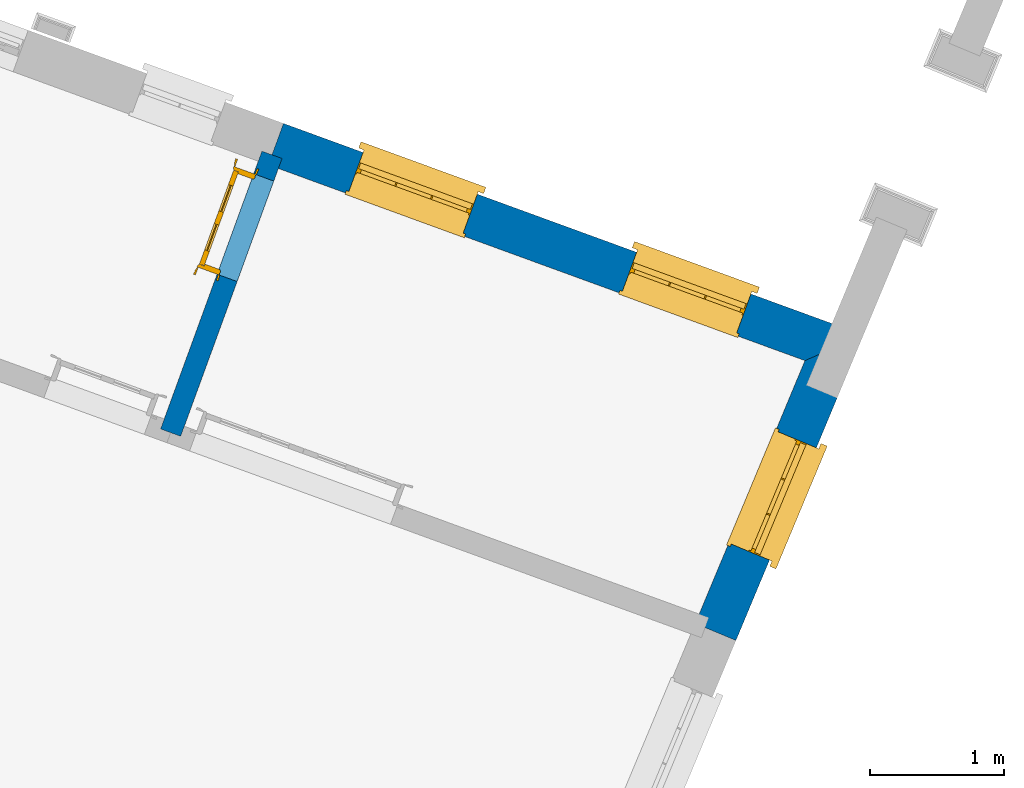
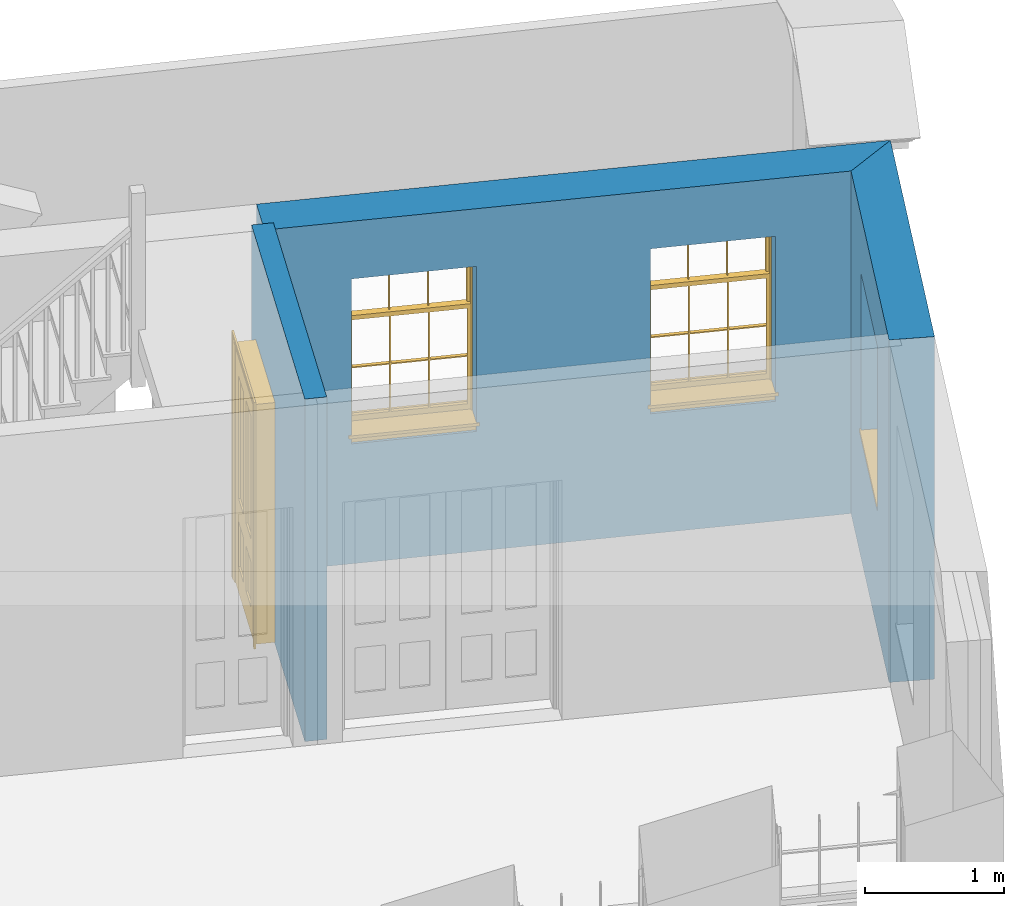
# One storey, part 4 of 6: 3 walls, 3 windows, 1 door, 4 openings.
"""IFC4 building model written with IfcOpenShell, lengths in metres."""

from ifc_helpers import new_model, si_unit, frame, origin, origin_with_axes, place, context, subcontext, project, spatial, polyline, outline, extrude, faceted_brep, source, transform, mapped, material, layer, layer_set, layer_usage, type_object, type_shapes, element, fill, save


model = new_model("IFC4")

# Units and contexts
model_context = context("Model", 3, world=origin_with_axes())
body_context = subcontext(model_context, "Body", "Model", "MODEL_VIEW")
ifc_project = project(units=[si_unit("PLANEANGLEUNIT", "RADIAN"), si_unit("MASSUNIT", "GRAM", prefix="KILO"), si_unit("FORCEUNIT", "NEWTON", prefix="KILO"), si_unit("LENGTHUNIT", "METRE"), si_unit("AREAUNIT", "SQUARE_METRE"), si_unit("VOLUMEUNIT", "CUBIC_METRE")], contexts=[model_context, model_context])

# Sites, building, storey
site_1_placement = place(None, origin_with_axes())
site_1 = spatial("IfcSite", under=ifc_project, at=site_1_placement, Name="Tamar")
site_2_placement = place(site_1_placement, origin_with_axes())
site_2 = spatial("IfcSite", under=site_1, at=site_2_placement, Name="Site plot-13", CompositionType="ELEMENT")
building_placement = place(None, origin_with_axes())
building = spatial("IfcBuilding", under=site_2, at=building_placement, Name="Building plot-13", CompositionType="ELEMENT")
storey_placement = place(None, frame((0.0, 0.0, 26.0), z_axis=(0.0, 0.0, 1.0), x_axis=(1.0, 0.0, 0.0)))
storey = spatial("IfcBuildingStorey", under=building, at=storey_placement, Name="plot-13 0", CompositionType="ELEMENT", Elevation=26.0)

# Wall, opening, window
ifc_material_1 = material(Name="Masonry")
ifc_layer_1 = layer(ifc_material_1, 0.33, ventilated=False)
ifc_layer_set_1 = layer_set([ifc_layer_1], Name="exterior_0.08_0.25")
ifc_layer_usage_1 = layer_usage(ifc_layer_set_1, "AXIS2", "POSITIVE", -0.25)
wall_type_1 = type_object("IfcWallType", Name="exterior_0.08_0.25", PredefinedType="SOLIDWALL", material=ifc_layer_set_1)
wall_1_placement = place(storey_placement, frame((249.746626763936, 299.462658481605, 0.0), z_axis=(0.0, 0.0, 1.0), x_axis=(0.385150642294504, 0.922853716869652, 0.0)))
wall_1 = element("IfcWall", 1, at=wall_1_placement, inside=storey, type_object=wall_type_1, material=ifc_layer_usage_1, Name="exterior", context=body_context, shape_type="SweptSolid", body=[
    extrude(outline(polyline([(1.88520446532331e-14, 0.0799999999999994), (-8.53340920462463e-15, -0.250000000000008), (2.47628927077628, -0.250000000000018), (2.13090650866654, 0.0799999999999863), (1.88520446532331e-14, 0.0799999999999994)])), origin_with_axes(), (0.0, 0.0, 1.0), 3.0),
])
opening_1_placement = place(wall_1_placement, frame((0.652317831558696, 0.0, 1.05)))
opening_1 = element("IfcOpeningElement", 2, at=opening_1_placement, cuts=wall_1, Name="My Opening", ObjectType="Opening", context=body_context, shape_type="SweptSolid", body=[
    extrude(outline(polyline([(0.0, -0.270000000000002), (0.910000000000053, -0.269999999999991), (0.91000000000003, 1.09999999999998), (-2.28705943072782e-14, 1.09999999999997), (0.0, -0.270000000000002)])), origin_with_axes(), (0.0, 0.0, 1.0), 1.445),
])
window_type = type_object("IfcWindowType", Name="sash_shorter", PartitioningType="DOUBLE_PANEL_HORIZONTAL", PredefinedType="NOTDEFINED")
shared_shape_1 = source(origin(), body_context, "Body", "Brep", [
    faceted_brep([(0.876875, 0.145, 0.999097), (0.876875, 0.145, 1.411875), (0.9, 0.145, 1.435), (0.033125, 0.145, 1.411875), (0.033125, 0.145, 0.999097), (0.01, 0.145, 1.435), (0.033125, 0.115, 1.411875), (0.01, 0.115, 1.435), (0.033125, 0.115, 0.999097), (0.876875, 0.115, 1.411875), (0.876875, 0.115, 0.999097), (0.9, 0.115, 1.435), (0.033125, 0.145, 0.960972), (0.01, 0.145, 0.960972), (0.033125, 0.145, 0.548195), (0.876875, 0.145, 0.960972), (0.876875, 0.145, 0.548195), (0.9, 0.145, 0.960972), (0.876875, 0.145, 0.538195), (0.876875, 0.145, 0.125417), (0.9, 0.145, 0.077167), (0.033125, 0.145, 0.125417), (0.033125, 0.145, 0.538195), (0.01, 0.145, 0.077167), (0.9, 0.115, 0.960972), (0.01, 0.115, 0.960972), (-0.0425, 0.0, 0.01), (-0.0425, -0.05, 0.001667), (0.0, 0.0, 0.01), (0.9525, 0.0, 0.01), (0.91, 0.0, 0.01), (0.9525, -0.05, 0.001667), (-0.02, 0.33, 0.077167), (0.0, 0.33, 0.077167), (-0.02, 0.36, 0.077167), (0.0, 0.19, 0.077167), (0.01, 0.19, 0.077167), (0.91, 0.19, 0.077167), (0.91, 0.33, 0.077167), (0.9, 0.19, 0.077167), (0.93, 0.33, 0.077167), (0.93, 0.36, 0.077167), (0.01, 0.145, 0.999097), (0.01, 0.175, 0.999097), (0.9, 0.145, 0.999097), (0.9, 0.175, 0.999097), (0.876875, 0.175, 0.125417), (0.876875, 0.175, 0.538195), (0.9, 0.175, 0.077167), (0.876875, 0.175, 0.548195), (0.876875, 0.175, 0.960972), (0.033125, 0.175, 0.125417), (0.01, 0.175, 0.077167), (0.033125, 0.175, 0.538195), (0.033125, 0.175, 0.960972), (0.033125, 0.175, 0.548195), (-0.02, 0.33, 0.052167), (-0.02, 0.36, 0.052167), (0.93, 0.36, 0.052167), (0.93, 0.33, 0.052167), (0.91, 0.33, 0.052167), (0.0, 0.33, 0.052167), (0.91, 0.1, 0.026667), (0.0, 0.1, 0.026667), (-0.0425, -0.05, -0.123333), (0.9525, -0.05, -0.123333), (-0.0425, 0.0, -0.123333), (0.9525, 0.0, -0.123333), (0.01, 0.19, 1.435), (0.9, 0.19, 1.435), (0.0, 0.19, 1.445), (0.91, 0.19, 1.445), (0.01, 0.1, 0.077167), (0.9, 0.1, 0.077167), (0.592292, 0.145, 0.125417), (0.592292, 0.175, 0.125417), (0.317708, 0.175, 0.125417), (0.317708, 0.145, 0.125417), (0.592292, 0.145, 0.548195), (0.317708, 0.145, 0.548195), (0.317708, 0.145, 0.538195), (0.592292, 0.145, 0.538195), (0.592292, 0.175, 0.548195), (0.317708, 0.175, 0.548195), (0.602292, 0.175, 0.548195), (0.602292, 0.145, 0.548195), (0.317708, 0.175, 0.538195), (0.307708, 0.175, 0.125417), (0.307708, 0.175, 0.538195), (0.602292, 0.175, 0.538195), (0.602292, 0.175, 0.125417), (0.592292, 0.175, 0.538195), (0.307708, 0.175, 0.548195), (0.317708, 0.175, 0.960972), (0.307708, 0.175, 0.960972), (0.602292, 0.175, 0.960972), (0.592292, 0.175, 0.960972), (0.307708, 0.145, 0.538195), (0.307708, 0.145, 0.125417), (0.307708, 0.145, 0.548195), (0.307708, 0.145, 0.960972), (0.592292, 0.145, 0.960972), (0.317708, 0.145, 0.960972), (0.602292, 0.145, 0.960972), (0.602292, 0.145, 0.538195), (0.602292, 0.145, 0.125417), (0.317708, 0.115, 1.411875), (0.307708, 0.115, 1.411875), (0.307708, 0.115, 0.999097), (0.317708, 0.115, 0.999097), (0.602292, 0.115, 1.411875), (0.592292, 0.115, 1.411875), (0.592292, 0.115, 0.999097), (0.602292, 0.115, 0.999097), (0.317708, 0.145, 0.999097), (0.307708, 0.145, 0.999097), (0.307708, 0.145, 1.411875), (0.317708, 0.145, 1.411875), (0.602292, 0.145, 0.999097), (0.592292, 0.145, 0.999097), (0.592292, 0.145, 1.411875), (0.602292, 0.145, 1.411875), (0.91, 0.1, 1.445), (0.9, 0.1, 1.435), (0.01, 0.1, 1.435), (0.0, 0.1, 1.445), (0.91, 0.0, 0.0), (0.0, 0.0, 0.0), (0.91, 0.33, 0.0), (0.0, 0.33, 0.0)], [[[0, 1, 2]], [[3, 4, 5]], [[6, 7, 8]], [[9, 10, 11]], [[12, 13, 14]], [[15, 16, 17]], [[18, 19, 20]], [[21, 22, 23]], [[24, 15, 17]], [[13, 12, 25]], [[26, 27, 28]], [[29, 30, 31]], [[32, 33, 34]], [[35, 36, 33]], [[37, 38, 39]], [[40, 41, 38]], [[42, 4, 43]], [[44, 45, 0]], [[46, 47, 48]], [[49, 50, 45]], [[51, 52, 53]], [[54, 55, 43]], [[38, 33, 36, 39]], [[41, 34, 33, 38]], [[56, 32, 34, 57]], [[57, 34, 41, 58]], [[58, 41, 40, 59]], [[57, 58, 60, 61]], [[52, 48, 39, 36]], [[62, 63, 28, 30]], [[27, 31, 30, 28]], [[27, 64, 65, 31]], [[66, 67, 65, 64]], [[2, 5, 68, 69]], [[68, 70, 71, 69]], [[20, 23, 72, 73]], [[73, 72, 63, 62]], [[74, 75, 76, 77]], [[78, 79, 80, 81]], [[78, 82, 83, 79]], [[16, 49, 84, 85]], [[86, 76, 87, 88]], [[89, 90, 75, 91]], [[92, 88, 53, 55]], [[82, 91, 86, 83]], [[93, 83, 92, 94]], [[95, 84, 82, 96]], [[89, 84, 49, 47]], [[97, 88, 87, 98]], [[22, 53, 88, 97]], [[81, 91, 75, 74]], [[80, 86, 91, 81]], [[77, 76, 86, 80]], [[99, 92, 55, 14]], [[100, 94, 92, 99]], [[101, 96, 82, 78]], [[79, 83, 93, 102]], [[85, 84, 95, 103]], [[104, 89, 47, 18]], [[105, 90, 89, 104]], [[104, 18, 16, 85]], [[80, 97, 98, 77]], [[104, 81, 74, 105]], [[103, 101, 78, 85]], [[99, 14, 22, 97]], [[102, 100, 99, 79]], [[106, 107, 108, 109]], [[110, 111, 112, 113]], [[114, 115, 116, 117]], [[118, 119, 120, 121]], [[107, 116, 115, 108]], [[111, 120, 119, 112]], [[109, 114, 117, 106]], [[113, 118, 121, 110]], [[85, 78, 81, 104]], [[84, 89, 91, 82]], [[83, 86, 88, 92]], [[79, 99, 97, 80]], [[109, 112, 119, 114]], [[102, 93, 96, 101]], [[106, 117, 120, 111]], [[98, 87, 51, 21]], [[6, 3, 116, 107]], [[110, 121, 1, 9]], [[19, 46, 90, 105]], [[26, 66, 64, 27]], [[29, 31, 65, 67]], [[25, 24, 112, 109]], [[11, 7, 106, 111]], [[75, 48, 52, 76]], [[43, 45, 96, 93]], [[45, 43, 114, 119]], [[5, 2, 120, 117]], [[24, 25, 102, 101]], [[42, 5, 4]], [[2, 44, 0]], [[49, 45, 48, 47]], [[52, 43, 55, 53]], [[14, 13, 23, 22]], [[20, 17, 16, 18]], [[24, 11, 10]], [[25, 8, 7]], [[8, 4, 3, 6]], [[9, 1, 0, 10]], [[15, 50, 49, 16]], [[18, 47, 46, 19]], [[21, 51, 53, 22]], [[14, 55, 54, 12]], [[44, 2, 69, 45]], [[68, 5, 42, 43]], [[36, 35, 70, 68]], [[39, 69, 71, 37]], [[62, 122, 123, 73]], [[63, 72, 124, 125]], [[8, 108, 115, 4]], [[113, 10, 0, 118]], [[94, 100, 12, 54]], [[17, 20, 73, 24]], [[72, 23, 13, 25]], [[52, 36, 68, 43]], [[69, 39, 48, 45]], [[11, 24, 73, 123]], [[7, 124, 72, 25]], [[23, 77, 98]], [[98, 21, 23]], [[105, 74, 20]], [[20, 19, 105]], [[20, 74, 77, 23]], [[113, 112, 24]], [[24, 10, 113]], [[25, 109, 108]], [[108, 8, 25]], [[110, 9, 11]], [[11, 111, 110]], [[7, 6, 107]], [[107, 106, 7]], [[5, 117, 116]], [[116, 3, 5]], [[121, 120, 2]], [[2, 1, 121]], [[11, 123, 124, 7]], [[122, 125, 124, 123]], [[43, 93, 94]], [[94, 54, 43]], [[96, 45, 95]], [[50, 95, 45]], [[15, 103, 95, 50]], [[48, 75, 90]], [[90, 46, 48]], [[87, 76, 52]], [[52, 51, 87]], [[103, 15, 24]], [[24, 101, 103]], [[100, 102, 25]], [[25, 12, 100]], [[115, 114, 43]], [[43, 4, 115]], [[118, 0, 45]], [[45, 119, 118]], [[71, 70, 125, 122]], [[70, 35, 63, 125]], [[122, 62, 37, 71]], [[126, 67, 66, 127]], [[60, 58, 59]], [[38, 60, 59, 40]], [[61, 56, 57]], [[32, 56, 61, 33]], [[61, 60, 128, 129]], [[62, 60, 38, 37]], [[126, 128, 60, 62]], [[33, 61, 63, 35]], [[61, 129, 127, 63]], [[128, 126, 127, 129]], [[28, 127, 66, 26]], [[63, 127, 28]], [[29, 67, 126, 30]], [[30, 126, 62]]]),
])
type_shapes(window_type, [shared_shape_1])
window_1_placement = place(storey_placement, frame((250.247037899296, 299.96066174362, 1.05), z_axis=(0.0, 0.0, 1.0), x_axis=(0.350487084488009, 0.839796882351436, 0.0)))
window_1 = element("IfcWindow", 3, at=window_1_placement, inside=storey, type_object=window_type, Name="kitchen street window", OverallHeight=1.445, OverallWidth=0.91, context=body_context, shape_type="MappedRepresentation", body=[
    mapped(shared_shape_1, transform((0.0, 0.0, 0.0), scale=1.0)),
])
fill(opening_1, window_1)

# Wall, openings, windows
wall_2_placement = place(storey_placement, frame((250.599595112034, 301.506443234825, 0.0), z_axis=(0.0, 0.0, 1.0), x_axis=(-0.939432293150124, 0.342734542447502, 0.0)))
wall_2 = element("IfcWall", 4, at=wall_2_placement, inside=storey, type_object=wall_type_1, material=ifc_layer_usage_1, Name="exterior", context=body_context, shape_type="SweptSolid", body=[
    extrude(outline(polyline([(0.0837291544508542, 0.0800000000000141), (-0.261653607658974, -0.249999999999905), (4.35646628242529, -0.249999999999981), (4.35646628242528, 0.0799999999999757), (0.0837291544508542, 0.0800000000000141)])), origin_with_axes(), (0.0, 0.0, 1.0), 3.0),
])
opening_2_placement = place(wall_2_placement, frame((0.634116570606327, 0.0, 1.05)))
opening_2 = element("IfcOpeningElement", 5, at=opening_2_placement, cuts=wall_2, Name="My Opening", ObjectType="Opening", context=body_context, shape_type="SweptSolid", body=[
    extrude(outline(polyline([(0.0, -0.269999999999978), (0.909999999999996, -0.27), (0.909999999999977, 1.09999999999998), (-1.82076576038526e-14, 1.1), (0.0, -0.269999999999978)])), origin_with_axes(), (0.0, 0.0, 1.0), 1.445),
])
opening_3_placement = place(wall_2_placement, frame((2.812349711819, 0.0, 1.05)))
opening_3 = element("IfcOpeningElement", 6, at=opening_3_placement, cuts=wall_2, Name="My Opening", ObjectType="Opening", context=body_context, shape_type="SweptSolid", body=[
    extrude(outline(polyline([(0.0, -0.27), (0.909999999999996, -0.270000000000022), (0.909999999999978, 1.09999999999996), (-1.77635683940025e-14, 1.09999999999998), (0.0, -0.27)])), origin_with_axes(), (0.0, 0.0, 1.0), 1.445),
])
window_2_placement = place(storey_placement, frame((250.096423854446, 301.977423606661, 1.05), z_axis=(0.0, 0.0, 1.0), x_axis=(-0.854883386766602, 0.311888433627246, 0.0)))
window_2 = element("IfcWindow", 7, at=window_2_placement, inside=storey, type_object=window_type, Name="kitchen outside window", OverallHeight=1.445, OverallWidth=0.91, context=body_context, shape_type="MappedRepresentation", body=[
    mapped(shared_shape_1, transform((0.0, 0.0, 0.0), scale=1.0)),
])
fill(opening_2, window_2)
window_3_placement = place(storey_placement, frame((248.050121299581, 302.723979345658, 1.05), z_axis=(0.0, 0.0, 1.0), x_axis=(-0.854883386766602, 0.311888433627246, 0.0)))
window_3 = element("IfcWindow", 8, at=window_3_placement, inside=storey, type_object=window_type, Name="kitchen outside window", OverallHeight=1.445, OverallWidth=0.91, context=body_context, shape_type="MappedRepresentation", body=[
    mapped(shared_shape_1, transform((0.0, 0.0, 0.0), scale=1.0)),
])
fill(opening_3, window_3)

# Wall, opening, door
ifc_material_2 = material(Name="Masonry")
ifc_layer_2 = layer(ifc_material_2, 0.16, ventilated=False)
ifc_layer_set_2 = layer_set([ifc_layer_2], Name="interior_0.08_0.08")
ifc_layer_usage_2 = layer_usage(ifc_layer_set_2, "AXIS2", "POSITIVE", -0.08)
wall_type_2 = type_object("IfcWallType", Name="interior_0.08_0.08", PredefinedType="SOLIDWALL", material=ifc_layer_set_2)
wall_3_placement = place(storey_placement, frame((245.748744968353, 300.921211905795, 0.0), z_axis=(0.0, 0.0, 1.0), x_axis=(0.342734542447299, 0.939432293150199, 0.0)))
wall_3 = element("IfcWall", 9, at=wall_3_placement, inside=storey, type_object=wall_type_2, material=ifc_layer_usage_2, Name="interior", context=body_context, shape_type="SweptSolid", body=[
    extrude(outline(polyline([(-2.5183841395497e-14, 0.0799999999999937), (2.51936385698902e-14, -0.0799999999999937), (2.21233911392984, -0.0799999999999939), (2.21233911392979, 0.0799999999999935), (-2.5183841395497e-14, 0.0799999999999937)])), origin_with_axes(), (0.0, 0.0, 1.0), 3.0),
])
opening_4_placement = place(wall_3_placement, frame((1.23233911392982, 0.0, 0.0199999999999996)))
opening_4 = element("IfcOpeningElement", 10, at=opening_4_placement, cuts=wall_3, Name="My Opening", ObjectType="Opening", context=body_context, shape_type="SweptSolid", body=[
    extrude(outline(polyline([(0.0, -0.0999999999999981), (0.799999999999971, -0.100000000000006), (0.799999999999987, 1.09999999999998), (1.55431223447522e-14, 1.09999999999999), (0.0, -0.0999999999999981)])), origin_with_axes(), (0.0, 0.0, 1.0), 2.1),
])
door_type = type_object("IfcDoorType", Name="door_inside", OperationType="SINGLE_SWING_LEFT", PredefinedType="NOTDEFINED")
shared_shape_2 = source(origin(), body_context, "Body", "Brep", [
    faceted_brep([(0.773, 0.33, 1.895), (0.66, 0.33, 1.895), (0.66, 0.33, 2.073), (0.773, 0.33, 2.073), (0.773, 0.33, 0.82), (0.66, 0.33, 0.82), (0.45, 0.33, 1.895), (0.45, 0.33, 2.073), (0.773, 0.33, 0.62), (0.66, 0.33, 0.62), (0.66, 0.315, 0.82), (0.66, 0.315, 1.895), (0.45, 0.315, 1.895), (0.35, 0.33, 1.895), (0.35, 0.33, 2.073), (0.773, 0.33, 0.225), (0.66, 0.33, 0.225), (0.45, 0.33, 0.62), (0.45, 0.33, 0.82), (0.45, 0.315, 0.82), (0.35, 0.33, 0.82), (0.14, 0.33, 2.073), (0.14, 0.33, 1.895), (0.773, 0.33, 0.0), (0.66, 0.33, 0.0), (0.66, 0.315, 0.225), (0.66, 0.315, 0.62), (0.45, 0.315, 0.62), (0.35, 0.33, 0.62), (0.35, 0.315, 0.82), (0.35, 0.315, 1.895), (0.14, 0.315, 1.895), (0.027, 0.33, 2.073), (0.027, 0.33, 1.895), (0.773, 0.292, 0.0), (0.66, 0.292, 0.0), (0.45, 0.33, 0.0), (0.45, 0.33, 0.225), (0.45, 0.315, 0.225), (0.35, 0.33, 0.225), (0.14, 0.33, 0.82), (0.14, 0.33, 0.62), (0.14, 0.315, 0.82), (0.027, 0.33, 0.82), (0.773, 0.292, 0.225), (0.66, 0.292, 0.225), (0.45, 0.292, 0.0), (0.35, 0.33, 0.0), (0.35, 0.315, 0.225), (0.35, 0.315, 0.62), (0.14, 0.315, 0.62), (0.027, 0.33, 0.62), (0.773, 0.292, 0.62), (0.66, 0.292, 0.62), (0.45, 0.292, 0.225), (0.35, 0.292, 0.0), (0.14, 0.33, 0.225), (0.14, 0.33, 0.0), (0.14, 0.315, 0.225), (0.027, 0.33, 0.225), (0.773, 0.292, 0.82), (0.66, 0.292, 0.82), (0.66, 0.307, 0.62), (0.66, 0.307, 0.225), (0.45, 0.307, 0.225), (0.35, 0.292, 0.225), (0.14, 0.292, 0.0), (0.027, 0.33, 0.0), (0.773, 0.292, 1.895), (0.66, 0.292, 1.895), (0.45, 0.292, 0.62), (0.45, 0.292, 0.82), (0.45, 0.307, 0.62), (0.35, 0.292, 0.62), (0.14, 0.292, 0.225), (0.027, 0.292, 0.0), (0.773, 0.292, 2.073), (0.66, 0.292, 2.073), (0.66, 0.307, 1.895), (0.66, 0.307, 0.82), (0.45, 0.307, 0.82), (0.35, 0.292, 0.82), (0.35, 0.307, 0.62), (0.35, 0.307, 0.225), (0.14, 0.307, 0.225), (0.027, 0.292, 0.225), (0.45, 0.292, 1.895), (0.45, 0.292, 2.073), (0.45, 0.307, 1.895), (0.35, 0.292, 1.895), (0.14, 0.292, 0.82), (0.14, 0.292, 0.62), (0.14, 0.307, 0.62), (0.027, 0.292, 0.62), (0.35, 0.292, 2.073), (0.35, 0.307, 1.895), (0.35, 0.307, 0.82), (0.14, 0.307, 0.82), (0.027, 0.292, 0.82), (0.14, 0.292, 2.073), (0.14, 0.292, 1.895), (0.14, 0.307, 1.895), (0.027, 0.292, 1.895), (0.027, 0.292, 2.073), (0.02, 0.335, 0.0), (0.005, 0.34, 0.0), (0.005, 0.34, 2.095), (0.02, 0.335, 2.08), (0.02, 0.33, 0.0), (0.0, 0.335, 0.0), (0.0, 0.335, 2.1), (0.795, 0.34, 2.095), (0.78, 0.335, 2.08), (0.02, 0.33, 2.08), (0.0, 0.33, 0.0), (-0.032, 0.345, 0.0), (-0.032, 0.345, 2.132), (0.8, 0.335, 2.1), (0.795, 0.34, 0.0), (0.78, 0.335, 0.0), (0.78, 0.33, 2.08), (0.04, 0.29, 0.0), (0.025, 0.29, 0.0), (0.025, 0.29, 2.075), (0.04, 0.29, 2.06), (-0.04, 0.34, 0.0), (-0.04, 0.34, 2.14), (0.832, 0.345, 2.132), (0.8, 0.335, 0.0), (0.78, 0.33, 0.0), (0.8, 0.33, 0.0), (0.86, 0.33, 0.0), (0.86, 0.33, 2.16), (0.8, 0.33, 2.1), (-0.06, 0.33, 2.16), (0.0, 0.33, 2.1), (-0.06, 0.33, 0.0), (-0.04, 0.345, 0.0), (-0.04, 0.345, 2.14), (0.84, 0.34, 2.14), (0.832, 0.345, 0.0), (0.84, 0.34, 0.0), (0.86, 0.345, 0.0), (0.86, 0.345, 2.16), (-0.06, 0.345, 2.16), (-0.06, 0.345, 0.0), (0.84, 0.345, 0.0), (0.84, 0.345, 2.14), (-0.025, 0.155, 0.0), (-0.025, 0.16, 0.0), (-0.025, 0.16, 2.125), (-0.025, 0.155, 2.125), (-0.017, 0.155, 0.0), (-0.017, 0.155, 2.117), (0.825, 0.16, 2.125), (0.825, 0.155, 2.125), (0.825, 0.155, 0.0), (0.845, 0.155, 0.0), (-0.045, 0.155, 2.145), (-0.045, 0.155, 0.0), (0.845, 0.155, 2.145), (0.015, 0.165, 0.0), (0.015, 0.165, 2.085), (0.817, 0.155, 2.117), (0.825, 0.16, 0.0), (0.845, 0.17, 0.0), (0.845, 0.17, 2.145), (-0.045, 0.17, 2.145), (-0.045, 0.17, 0.0), (0.02, 0.16, 0.0), (0.02, 0.16, 2.08), (0.785, 0.165, 2.085), (0.817, 0.155, 0.0), (0.8, 0.17, 0.0), (0.8, 0.17, 2.1), (0.0, 0.17, 2.1), (0.0, 0.17, 0.0), (0.035, 0.165, 0.0), (0.035, 0.165, 2.065), (0.78, 0.16, 2.08), (0.785, 0.165, 0.0), (0.775, 0.29, 2.075), (0.76, 0.29, 2.06), (0.035, 0.17, 2.065), (0.035, 0.17, 0.0), (0.765, 0.165, 2.065), (0.78, 0.16, 0.0), (0.765, 0.17, 0.0), (0.765, 0.17, 2.065), (0.765, 0.165, 0.0), (0.04, 0.17, 2.06), (0.04, 0.17, 0.0), (0.76, 0.17, 2.06), (0.76, 0.17, 0.0), (0.76, 0.29, 0.0), (0.775, 0.29, 0.0), (0.025, 0.33, 0.0), (0.025, 0.33, 2.075), (0.775, 0.33, 0.0), (0.775, 0.33, 2.075)], [[[0, 1, 2, 3]], [[1, 0, 4, 5]], [[1, 6, 7, 2]], [[8, 9, 5, 4]], [[1, 5, 10, 11]], [[6, 1, 11, 12]], [[6, 13, 14, 7]], [[15, 16, 9, 8]], [[9, 17, 18, 5]], [[5, 18, 19, 10]], [[10, 19, 12, 11]], [[18, 6, 12, 19]], [[18, 20, 13, 6]], [[21, 14, 13, 22]], [[23, 24, 16, 15]], [[9, 16, 25, 26]], [[17, 9, 26, 27]], [[17, 28, 20, 18]], [[13, 20, 29, 30]], [[22, 13, 30, 31]], [[32, 21, 22, 33]], [[34, 35, 24, 23]], [[24, 36, 37, 16]], [[16, 37, 38, 25]], [[25, 38, 27, 26]], [[37, 17, 27, 38]], [[37, 39, 28, 17]], [[40, 20, 28, 41]], [[20, 40, 42, 29]], [[31, 30, 29, 42]], [[40, 22, 31, 42]], [[33, 22, 40, 43]], [[35, 34, 44, 45]], [[35, 46, 36, 24]], [[36, 47, 39, 37]], [[28, 39, 48, 49]], [[41, 28, 49, 50]], [[43, 40, 41, 51]], [[45, 44, 52, 53]], [[46, 35, 45, 54]], [[46, 55, 47, 36]], [[56, 39, 47, 57]], [[39, 56, 58, 48]], [[50, 49, 48, 58]], [[56, 41, 50, 58]], [[51, 41, 56, 59]], [[53, 52, 60, 61]], [[45, 53, 62, 63]], [[54, 45, 63, 64]], [[55, 46, 54, 65]], [[55, 66, 57, 47]], [[59, 56, 57, 67]], [[61, 60, 68, 69]], [[70, 53, 61, 71]], [[53, 70, 72, 62]], [[72, 64, 63, 62]], [[70, 54, 64, 72]], [[65, 54, 70, 73]], [[65, 74, 66, 55]], [[67, 57, 66, 75]], [[69, 68, 76, 77]], [[61, 69, 78, 79]], [[71, 61, 79, 80]], [[73, 70, 71, 81]], [[65, 73, 82, 83]], [[74, 65, 83, 84]], [[74, 85, 75, 66]], [[86, 69, 77, 87]], [[69, 86, 88, 78]], [[88, 80, 79, 78]], [[86, 71, 80, 88]], [[81, 71, 86, 89]], [[73, 81, 90, 91]], [[73, 91, 92, 82]], [[83, 82, 92, 84]], [[91, 74, 84, 92]], [[91, 93, 85, 74]], [[89, 86, 87, 94]], [[81, 89, 95, 96]], [[90, 81, 96, 97]], [[90, 98, 93, 91]], [[94, 99, 100, 89]], [[89, 100, 101, 95]], [[101, 97, 96, 95]], [[100, 90, 97, 101]], [[100, 102, 98, 90]], [[99, 103, 102, 100]], [[32, 103, 99, 21]], [[102, 103, 32, 33]], [[98, 102, 33, 43]], [[21, 99, 94, 14]], [[94, 87, 7, 14]], [[7, 87, 77, 2]], [[76, 3, 2, 77]], [[43, 51, 93, 98]], [[51, 59, 85, 93]], [[67, 75, 85, 59]], [[34, 23, 15, 44]], [[44, 15, 8, 52]], [[52, 8, 4, 60]], [[0, 68, 60, 4]], [[0, 3, 76, 68]], [[104, 105, 106, 107]], [[104, 108, 109, 105]], [[105, 109, 110, 106]], [[107, 106, 111, 112]], [[107, 113, 108, 104]], [[114, 109, 108]], [[109, 115, 116, 110]], [[106, 110, 117, 111]], [[112, 111, 118, 119]], [[113, 107, 112, 120]], [[121, 122, 123, 124]], [[115, 109, 114, 125]], [[115, 125, 126, 116]], [[110, 116, 127, 117]], [[111, 117, 128, 118]], [[118, 128, 129, 119]], [[120, 112, 119, 129]], [[130, 129, 128]], [[130, 131, 132, 133]], [[133, 132, 134, 135]], [[135, 134, 136, 114]], [[136, 125, 114]], [[125, 137, 138, 126]], [[116, 126, 139, 127]], [[117, 127, 140, 128]], [[141, 130, 128, 140]], [[131, 130, 141]], [[131, 142, 143, 132]], [[132, 143, 144, 134]], [[134, 144, 145, 136]], [[137, 125, 136, 145]], [[143, 142, 146]], [[143, 146, 147]], [[137, 145, 144]], [[143, 147, 138]], [[138, 137, 144]], [[143, 138, 144]], [[126, 138, 147, 139]], [[127, 139, 141, 140]], [[142, 131, 141, 146]], [[139, 147, 146, 141]], [[148, 149, 150, 151]], [[149, 152, 153, 150]], [[151, 150, 154, 155]], [[155, 156, 157]], [[158, 159, 148]], [[158, 148, 151]], [[155, 157, 160]], [[158, 151, 155]], [[155, 160, 158]], [[152, 161, 162, 153]], [[150, 153, 163, 154]], [[155, 154, 164, 156]], [[156, 164, 165, 157]], [[157, 165, 166, 160]], [[160, 166, 167, 158]], [[158, 167, 168, 159]], [[161, 169, 170, 162]], [[153, 162, 171, 163]], [[154, 163, 172, 164]], [[165, 164, 173]], [[165, 173, 174, 166]], [[166, 174, 175, 167]], [[167, 175, 176, 168]], [[169, 177, 178, 170]], [[162, 170, 179, 171]], [[163, 171, 180, 172]], [[172, 180, 173, 164]], [[124, 123, 181, 182]], [[183, 178, 177, 184]], [[170, 178, 185, 179]], [[171, 179, 186, 180]], [[187, 173, 180]], [[185, 188, 187, 189]], [[188, 185, 178, 183]], [[179, 185, 189, 186]], [[189, 187, 180, 186]], [[190, 183, 184, 191]], [[192, 188, 183, 190]], [[191, 184, 122, 121]], [[124, 190, 191, 121]], [[193, 187, 188, 192]], [[182, 192, 190, 124]], [[184, 176, 122]], [[194, 195, 187, 193]], [[192, 182, 194, 193]], [[161, 176, 184]], [[114, 108, 122, 176]], [[173, 187, 195]], [[152, 149, 176, 161]], [[169, 161, 184, 177]], [[196, 122, 108]], [[176, 175, 135, 114]], [[173, 195, 129, 130]], [[176, 149, 168]], [[123, 122, 196, 197]], [[196, 108, 113, 197]], [[175, 174, 133, 135]], [[198, 129, 195]], [[133, 174, 173, 130]], [[159, 168, 149, 148]], [[181, 123, 197, 199]], [[197, 113, 120, 199]], [[199, 120, 129, 198]], [[195, 181, 199, 198]], [[195, 194, 182, 181]]]),
])
type_shapes(door_type, [shared_shape_2])
door_placement = place(storey_placement, frame((246.265053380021, 302.044637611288, 0.0199999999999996), z_axis=(0.0, 0.0, 1.0), x_axis=(0.274187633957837, 0.75154583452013, 0.0)))
door = element("IfcDoor", 11, at=door_placement, inside=storey, type_object=door_type, Name="kitchen inside door", OverallHeight=2.1, OverallWidth=0.8, context=body_context, shape_type="MappedRepresentation", body=[
    mapped(shared_shape_2, transform((0.0, 0.0, 0.0), scale=1.0)),
])
fill(opening_4, door)

save(model, "model.ifc")
